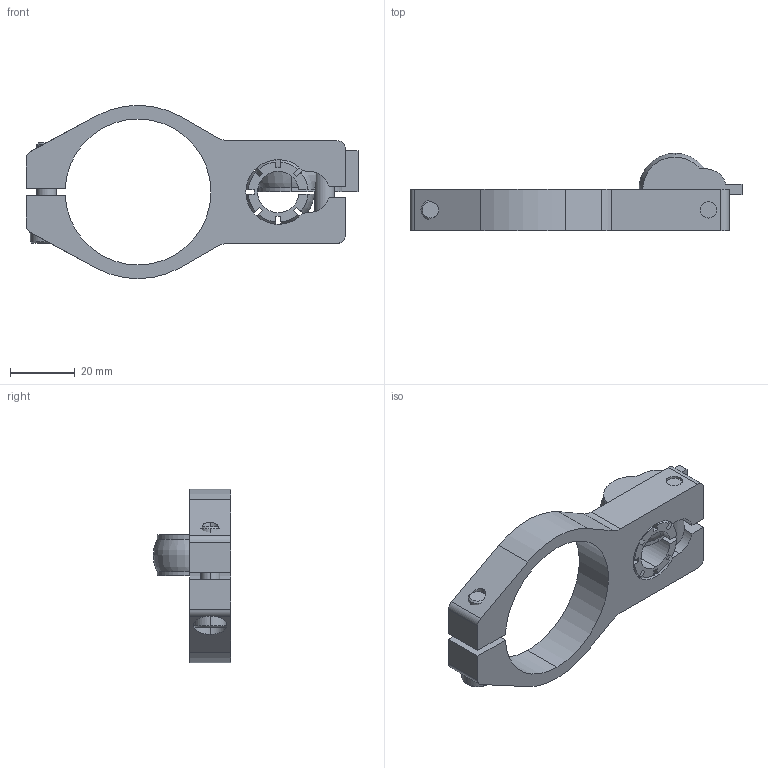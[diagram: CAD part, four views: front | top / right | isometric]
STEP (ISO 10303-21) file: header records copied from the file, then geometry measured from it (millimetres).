
FILE_DESCRIPTION (( 'STEP AP214' ), '1' );
FILE_NAME ('RTI-NPC-50-SPT20.STEP', '2013-10-22T14:27:01', ( 'user' ), ( '' ), 'SwSTEP 2.0', 'SolidWorks 2009', '' );
FILE_SCHEMA (( 'AUTOMOTIVE_DESIGN' ));
Length unit declared in the file: inch
Products named in the file (6): RTI-NPC-50-45-DC; .500 Ball Cavity; .875 OD_.502 ID_Swivel_Ball; M6 WASHER; M6 S.H.C.S._M6x25mm; RTI-NPC-50-SPT20
Assembly tree (7 placements, depth 2):
  RTI-NPC-50-SPT20
    M6 WASHER  x2
    .875 OD_.502 ID_Swivel_Ball
    M6 S.H.C.S._M6x25mm  x2
    RTI-NPC-50-45-DC
    .500 Ball Cavity
Bounding box: 102.39 x 23.88 x 53.46 mm (x, y, z)
Volume: 30140 mm3; surface area: 16905.7 mm2
Topology: 7 solids, 7 shells, 470 faces, 1220 edges, 808 vertices
Faces by surface type: plane 263, bspline 126, cylinder 59, torus 14, cone 8
Entity records: 26459 total; most frequent: CARTESIAN_POINT 12074, ORIENTED_EDGE 2340, DIRECTION 1668, EDGE_CURVE 1170, VERTEX_POINT 776, LINE 764, VECTOR 764, EDGE_LOOP 498
